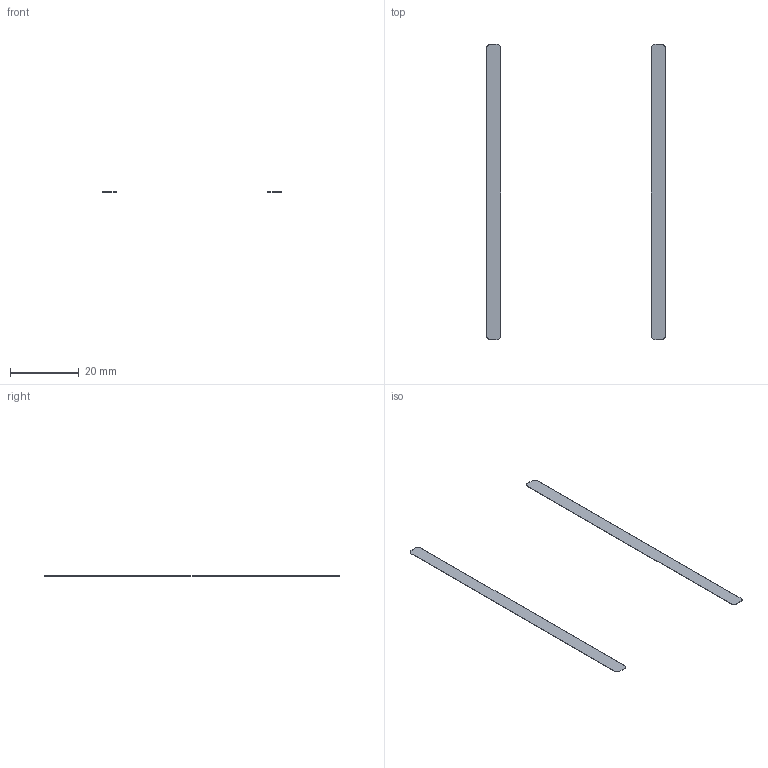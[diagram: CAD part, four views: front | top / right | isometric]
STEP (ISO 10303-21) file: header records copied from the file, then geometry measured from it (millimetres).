
FILE_DESCRIPTION(('Open CASCADE Model'),'2;1');
FILE_NAME('Open CASCADE Shape Model','2026-09-06T11:30:50',('Author'),( 'Open CASCADE'),'Open CASCADE STEP processor 7.7','Open CASCADE 7.7' ,'Unknown');
FILE_SCHEMA(('AUTOMOTIVE_DESIGN { 1 0 10303 214 1 1 1 1 }'));
Length unit declared in the file: millimetre
Products named in the file (3): Open CASCADE STEP translator 7.7 36; Open CASCADE STEP translator 7.7 36.1; Open CASCADE STEP translator 7.7 36.2
Assembly tree (2 placements, depth 2):
  Open CASCADE STEP translator 7.7 36
    Open CASCADE STEP translator 7.7 36.1
    Open CASCADE STEP translator 7.7 36.2
Bounding box: 52 x 86 x 0.1 mm (x, y, z)
Volume: 68.6 mm3; surface area: 1408.2 mm2
Topology: 2 solids, 2 shells, 20 faces, 48 edges, 32 vertices
Faces by surface type: plane 12, cylinder 8
Entity records: 1280 total; most frequent: CARTESIAN_POINT 247, DIRECTION 198, LINE 112, VECTOR 112, ORIENTED_EDGE 96, PCURVE 96, DEFINITIONAL_REPRESENTATION 96, EDGE_CURVE 48
